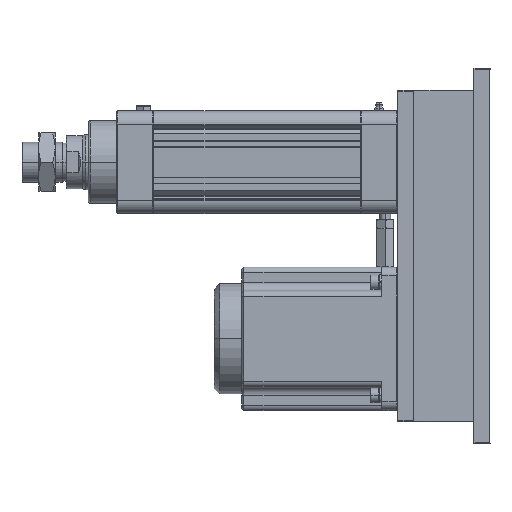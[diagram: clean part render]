
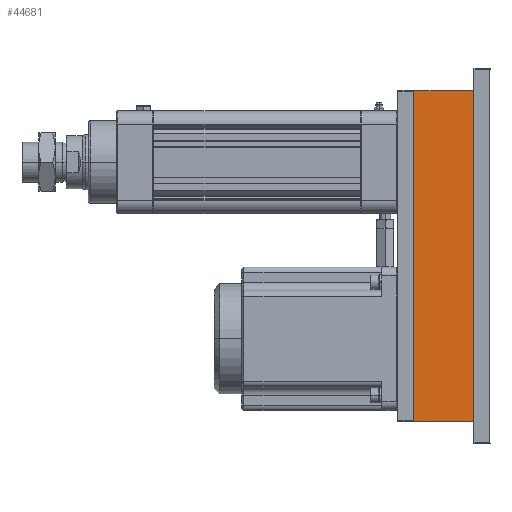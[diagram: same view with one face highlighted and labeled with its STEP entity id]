
A CAD part, left-side view. The second image highlights one B-rep face of the part: STEP entity #44681.
In plain terms, the highlighted planar face has unit normal (-1, 0, 0) as drawn and (0, 0, -1) by its records, which use the part's own axes.
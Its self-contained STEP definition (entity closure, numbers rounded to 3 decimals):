
#44414=DIRECTION('',(-1.,0.,0.));
#44415=VECTOR('',#44414,299.);
#44416=CARTESIAN_POINT('',(149.5,-27.,-75.));
#44417=LINE('',#44416,#44415);
#44451=DIRECTION('',(0.,-1.,0.));
#44452=VECTOR('',#44451,54.);
#44453=CARTESIAN_POINT('',(149.5,27.,-75.));
#44454=LINE('',#44453,#44452);
#44455=DIRECTION('',(0.,-1.,0.));
#44456=VECTOR('',#44455,54.);
#44457=CARTESIAN_POINT('',(-149.5,27.,-75.));
#44458=LINE('',#44457,#44456);
#44489=DIRECTION('',(-1.,0.,0.));
#44490=VECTOR('',#44489,299.);
#44491=CARTESIAN_POINT('',(149.5,27.,-75.));
#44492=LINE('',#44491,#44490);
#44559=CARTESIAN_POINT('',(149.5,-27.,-75.));
#44561=VERTEX_POINT('',#44559);
#44565=CARTESIAN_POINT('',(149.5,27.,-75.));
#44566=VERTEX_POINT('',#44565);
#44568=CARTESIAN_POINT('',(-149.5,-27.,-75.));
#44570=VERTEX_POINT('',#44568);
#44571=CARTESIAN_POINT('',(-149.5,27.,-75.));
#44572=VERTEX_POINT('',#44571);
#44668=CARTESIAN_POINT('',(150.,-27.,-75.));
#44669=DIRECTION('',(0.,0.,-1.));
#44670=DIRECTION('',(-1.,0.,0.));
#44671=AXIS2_PLACEMENT_3D('',#44668,#44669,#44670);
#44672=PLANE('',#44671);
#44674=ORIENTED_EDGE('',*,*,#44673,.F.);
#44676=ORIENTED_EDGE('',*,*,#44675,.T.);
#44677=ORIENTED_EDGE('',*,*,#44660,.T.);
#44678=ORIENTED_EDGE('',*,*,#44606,.F.);
#44679=EDGE_LOOP('',(#44674,#44676,#44677,#44678));
#44680=FACE_OUTER_BOUND('',#44679,.F.);
#44681=ADVANCED_FACE('',(#44680),#44672,.T.);
#44606=EDGE_CURVE('',#44561,#44570,#44417,.T.);
#44660=EDGE_CURVE('',#44572,#44570,#44458,.T.);
#44673=EDGE_CURVE('',#44566,#44561,#44454,.T.);
#44675=EDGE_CURVE('',#44566,#44572,#44492,.T.);
